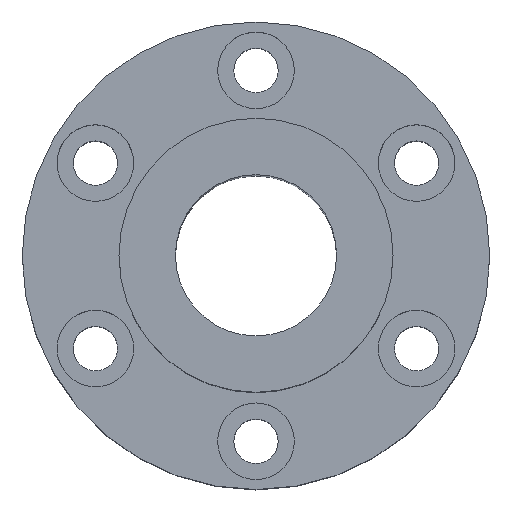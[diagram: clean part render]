
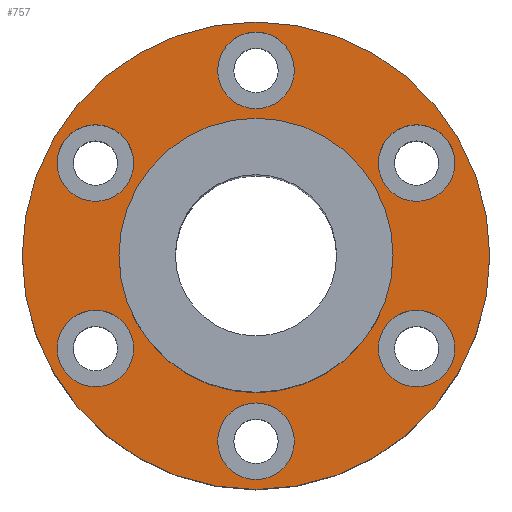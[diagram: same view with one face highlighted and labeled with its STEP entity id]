
A CAD part, top view. The second image highlights one B-rep face of the part: STEP entity #757.
In plain terms, the highlighted planar face has unit normal (0, 0, 1).
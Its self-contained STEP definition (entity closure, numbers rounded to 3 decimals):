
#30=CARTESIAN_POINT('',(0.,0.,15.));
#31=DIRECTION('',(0.,0.,1.));
#32=DIRECTION('',(1.,0.,0.));
#33=AXIS2_PLACEMENT_3D('',#30,#31,#32);
#117=CARTESIAN_POINT('',(0.,0.,15.));
#118=DIRECTION('',(0.,0.,1.));
#119=DIRECTION('',(1.,0.,0.));
#120=AXIS2_PLACEMENT_3D('',#117,#118,#119);
#122=CARTESIAN_POINT('',(0.,0.,15.));
#123=DIRECTION('',(0.,0.,1.));
#124=DIRECTION('',(-1.,0.,0.));
#125=AXIS2_PLACEMENT_3D('',#122,#123,#124);
#127=CARTESIAN_POINT('',(0.,23.,15.));
#128=DIRECTION('',(0.,0.,1.));
#129=DIRECTION('',(1.,0.,0.));
#130=AXIS2_PLACEMENT_3D('',#127,#128,#129);
#132=CARTESIAN_POINT('',(0.,23.,15.));
#133=DIRECTION('',(0.,0.,1.));
#134=DIRECTION('',(-1.,0.,0.));
#135=AXIS2_PLACEMENT_3D('',#132,#133,#134);
#137=CARTESIAN_POINT('',(-19.919,11.5,15.));
#138=DIRECTION('',(0.,0.,1.));
#139=DIRECTION('',(0.5,0.866,0.));
#140=AXIS2_PLACEMENT_3D('',#137,#138,#139);
#142=CARTESIAN_POINT('',(-19.919,11.5,15.));
#143=DIRECTION('',(0.,0.,1.));
#144=DIRECTION('',(-0.5,-0.866,0.));
#145=AXIS2_PLACEMENT_3D('',#142,#143,#144);
#147=CARTESIAN_POINT('',(-19.919,-11.5,15.));
#148=DIRECTION('',(0.,0.,1.));
#149=DIRECTION('',(-0.5,0.866,0.));
#150=AXIS2_PLACEMENT_3D('',#147,#148,#149);
#152=CARTESIAN_POINT('',(-19.919,-11.5,15.));
#153=DIRECTION('',(0.,0.,1.));
#154=DIRECTION('',(0.5,-0.866,0.));
#155=AXIS2_PLACEMENT_3D('',#152,#153,#154);
#157=CARTESIAN_POINT('',(0.,-23.,15.));
#158=DIRECTION('',(0.,0.,1.));
#159=DIRECTION('',(-1.,0.,0.));
#160=AXIS2_PLACEMENT_3D('',#157,#158,#159);
#162=CARTESIAN_POINT('',(0.,-23.,15.));
#163=DIRECTION('',(0.,0.,1.));
#164=DIRECTION('',(1.,0.,0.));
#165=AXIS2_PLACEMENT_3D('',#162,#163,#164);
#167=CARTESIAN_POINT('',(19.919,-11.5,15.));
#168=DIRECTION('',(0.,0.,1.));
#169=DIRECTION('',(-0.5,-0.866,0.));
#170=AXIS2_PLACEMENT_3D('',#167,#168,#169);
#172=CARTESIAN_POINT('',(19.919,-11.5,15.));
#173=DIRECTION('',(0.,0.,1.));
#174=DIRECTION('',(0.5,0.866,0.));
#175=AXIS2_PLACEMENT_3D('',#172,#173,#174);
#177=CARTESIAN_POINT('',(19.919,11.5,15.));
#178=DIRECTION('',(0.,0.,1.));
#179=DIRECTION('',(0.5,-0.866,0.));
#180=AXIS2_PLACEMENT_3D('',#177,#178,#179);
#182=CARTESIAN_POINT('',(19.919,11.5,15.));
#183=DIRECTION('',(0.,0.,1.));
#184=DIRECTION('',(-0.5,0.866,0.));
#185=AXIS2_PLACEMENT_3D('',#182,#183,#184);
#196=CARTESIAN_POINT('',(0.,0.,15.));
#197=DIRECTION('',(0.,0.,1.));
#198=DIRECTION('',(-1.,0.,0.));
#199=AXIS2_PLACEMENT_3D('',#196,#197,#198);
#461=CARTESIAN_POINT('',(29.,0.,15.));
#462=CARTESIAN_POINT('',(-29.,0.,15.));
#463=VERTEX_POINT('',#461);
#464=VERTEX_POINT('',#462);
#469=CARTESIAN_POINT('',(17.,0.,15.));
#470=CARTESIAN_POINT('',(-17.,0.,15.));
#471=VERTEX_POINT('',#469);
#472=VERTEX_POINT('',#470);
#481=CARTESIAN_POINT('',(4.75,23.,15.));
#482=CARTESIAN_POINT('',(-4.75,23.,15.));
#483=VERTEX_POINT('',#481);
#484=VERTEX_POINT('',#482);
#497=CARTESIAN_POINT('',(-17.544,15.614,15.));
#498=CARTESIAN_POINT('',(-22.294,7.386,15.));
#499=VERTEX_POINT('',#497);
#500=VERTEX_POINT('',#498);
#513=CARTESIAN_POINT('',(-22.294,-7.386,15.));
#514=CARTESIAN_POINT('',(-17.544,-15.614,15.));
#515=VERTEX_POINT('',#513);
#516=VERTEX_POINT('',#514);
#529=CARTESIAN_POINT('',(-4.75,-23.,15.));
#530=CARTESIAN_POINT('',(4.75,-23.,15.));
#531=VERTEX_POINT('',#529);
#532=VERTEX_POINT('',#530);
#545=CARTESIAN_POINT('',(17.544,-15.614,15.));
#546=CARTESIAN_POINT('',(22.294,-7.386,15.));
#547=VERTEX_POINT('',#545);
#548=VERTEX_POINT('',#546);
#561=CARTESIAN_POINT('',(22.294,7.386,15.));
#562=CARTESIAN_POINT('',(17.544,15.614,15.));
#563=VERTEX_POINT('',#561);
#564=VERTEX_POINT('',#562);
#707=CARTESIAN_POINT('',(0.,0.,15.));
#708=DIRECTION('',(0.,0.,1.));
#709=DIRECTION('',(1.,0.,0.));
#710=AXIS2_PLACEMENT_3D('',#707,#708,#709);
#711=PLANE('',#710);
#712=ORIENTED_EDGE('',*,*,#687,.F.);
#713=ORIENTED_EDGE('',*,*,#701,.F.);
#714=EDGE_LOOP('',(#712,#713));
#715=FACE_OUTER_BOUND('',#714,.F.);
#716=ORIENTED_EDGE('',*,*,#615,.T.);
#718=ORIENTED_EDGE('',*,*,#717,.T.);
#719=EDGE_LOOP('',(#716,#718));
#720=FACE_BOUND('',#719,.F.);
#722=ORIENTED_EDGE('',*,*,#721,.T.);
#724=ORIENTED_EDGE('',*,*,#723,.T.);
#725=EDGE_LOOP('',(#722,#724));
#726=FACE_BOUND('',#725,.F.);
#728=ORIENTED_EDGE('',*,*,#727,.T.);
#730=ORIENTED_EDGE('',*,*,#729,.T.);
#731=EDGE_LOOP('',(#728,#730));
#732=FACE_BOUND('',#731,.F.);
#734=ORIENTED_EDGE('',*,*,#733,.T.);
#736=ORIENTED_EDGE('',*,*,#735,.T.);
#737=EDGE_LOOP('',(#734,#736));
#738=FACE_BOUND('',#737,.F.);
#740=ORIENTED_EDGE('',*,*,#739,.T.);
#742=ORIENTED_EDGE('',*,*,#741,.T.);
#743=EDGE_LOOP('',(#740,#742));
#744=FACE_BOUND('',#743,.F.);
#746=ORIENTED_EDGE('',*,*,#745,.T.);
#748=ORIENTED_EDGE('',*,*,#747,.T.);
#749=EDGE_LOOP('',(#746,#748));
#750=FACE_BOUND('',#749,.F.);
#752=ORIENTED_EDGE('',*,*,#751,.T.);
#754=ORIENTED_EDGE('',*,*,#753,.T.);
#755=EDGE_LOOP('',(#752,#754));
#756=FACE_BOUND('',#755,.F.);
#757=ADVANCED_FACE('',(#715,#720,#726,#732,#738,#744,#750,#756),#711,.T.);
#34=CIRCLE('',#33,17.);
#121=CIRCLE('',#120,29.);
#126=CIRCLE('',#125,29.);
#131=CIRCLE('',#130,4.75);
#136=CIRCLE('',#135,4.75);
#141=CIRCLE('',#140,4.75);
#146=CIRCLE('',#145,4.75);
#151=CIRCLE('',#150,4.75);
#156=CIRCLE('',#155,4.75);
#161=CIRCLE('',#160,4.75);
#166=CIRCLE('',#165,4.75);
#171=CIRCLE('',#170,4.75);
#176=CIRCLE('',#175,4.75);
#181=CIRCLE('',#180,4.75);
#186=CIRCLE('',#185,4.75);
#200=CIRCLE('',#199,17.);
#615=EDGE_CURVE('',#471,#472,#34,.T.);
#687=EDGE_CURVE('',#463,#464,#121,.T.);
#701=EDGE_CURVE('',#464,#463,#126,.T.);
#717=EDGE_CURVE('',#472,#471,#200,.T.);
#721=EDGE_CURVE('',#483,#484,#131,.T.);
#723=EDGE_CURVE('',#484,#483,#136,.T.);
#727=EDGE_CURVE('',#499,#500,#141,.T.);
#729=EDGE_CURVE('',#500,#499,#146,.T.);
#733=EDGE_CURVE('',#515,#516,#151,.T.);
#735=EDGE_CURVE('',#516,#515,#156,.T.);
#739=EDGE_CURVE('',#531,#532,#161,.T.);
#741=EDGE_CURVE('',#532,#531,#166,.T.);
#745=EDGE_CURVE('',#547,#548,#171,.T.);
#747=EDGE_CURVE('',#548,#547,#176,.T.);
#751=EDGE_CURVE('',#563,#564,#181,.T.);
#753=EDGE_CURVE('',#564,#563,#186,.T.);
